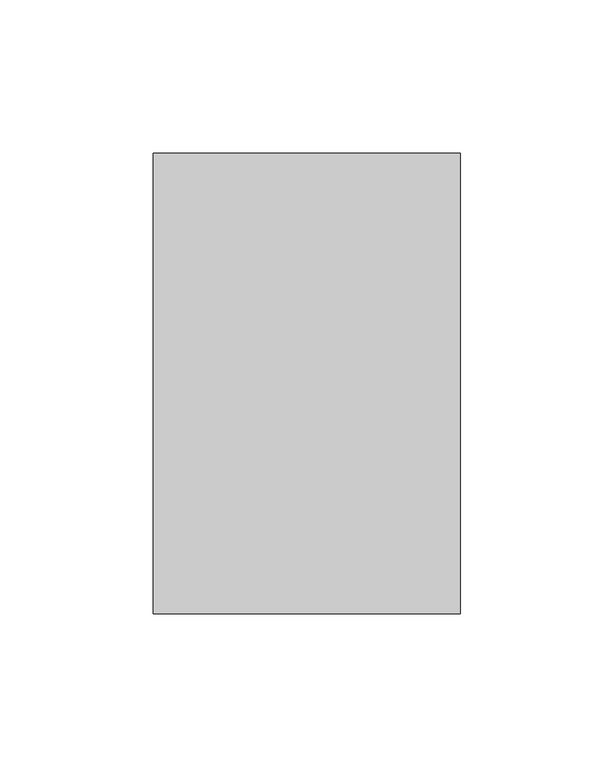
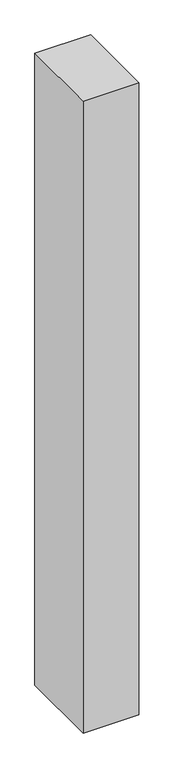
"""IFC4 building model written with IfcOpenShell, lengths in millimetres: member geometry, 矩形竖梃 : 教学楼 – 矩形竖梃 – 100x150mm."""

import ifcopenshell
import ifcopenshell.guid

model = None  # the IFC model being written
_history = None  # IfcOwnerHistory: only IFC2X3 demands one
_inside = {}  # id of a spatial element -> (the spatial element, [elements in it])
_under = {}  # id of a project, library or spatial element -> (it, [spatial elements below it])
_declared = {}  # id of a project -> (the project, [libraries it declares])
_typed = {}  # id of a type object -> (the type object, [elements of that type])
_made_of = {}  # id of a material, layer set ... -> (it, [elements and type objects made of it])


def new_model(schema):
    """Start an empty IFC model of exactly this schema.

    Asked for "IFC4X3", IfcOpenShell would pick the latest addendum, in which some entities
    have other attributes; the version numbers below select the first issue.
    IFC2X3 requires an IfcOwnerHistory on every rooted entity: one is made here for all.
    """
    global model, _history
    if schema == "IFC4X3":
        model = ifcopenshell.file(schema_version=(4, 3, 0, 0))
    else:
        model = ifcopenshell.file(schema=schema)
    _inside.clear()
    _under.clear()
    _declared.clear()
    _typed.clear()
    _made_of.clear()
    _history = None
    if model.schema == "IFC2X3":
        org = make("IfcOrganization", Name="unknown")
        user = make(
            "IfcPersonAndOrganization",
            ThePerson=make("IfcPerson", FamilyName="unknown"),
            TheOrganization=org,
        )
        app = make(
            "IfcApplication",
            ApplicationDeveloper=org,
            Version="unknown",
            ApplicationFullName="unknown",
            ApplicationIdentifier="unknown",
        )
        _history = make(
            "IfcOwnerHistory",
            OwningUser=user,
            OwningApplication=app,
            ChangeAction="ADDED",
            CreationDate=0,
        )
    return model


def make(cls, **values):
    """One entity of the class cls with the attributes given. An attribute that is None is left unset."""
    return model.create_entity(
        cls, **{name: value for name, value in values.items() if value is not None}
    )


def rooted(cls, **values):
    """An entity with a GlobalId (a new one), such as an element, a storey or a relation."""
    return make(cls, GlobalId=ifcopenshell.guid.new(), OwnerHistory=_history, **values)


def si_unit(unit_type, name, prefix=None):
    """IfcSIUnit, for example si_unit("LENGTHUNIT", "METRE", prefix="MILLI")."""
    return make("IfcSIUnit", UnitType=unit_type, Prefix=prefix, Name=name)


def assignment(units):
    """IfcUnitAssignment: the units of a project."""
    return None if units is None else make("IfcUnitAssignment", Units=units)


def point(xyz):
    """IfcCartesianPoint."""
    return None if xyz is None else make("IfcCartesianPoint", Coordinates=xyz)


def direction(xyz):
    """IfcDirection."""
    return None if xyz is None else make("IfcDirection", DirectionRatios=xyz)


def frame(location, z_axis=None, x_axis=None):
    """IfcAxis2Placement3D, a coordinate frame: its origin and axes. An axis left out is left unset."""
    return make(
        "IfcAxis2Placement3D",
        Location=point(location),
        Axis=direction(z_axis),
        RefDirection=direction(x_axis),
    )


def origin():
    """The frame at (0, 0, 0) with its axes left unset."""
    return frame((0.0, 0.0, 0.0))


def place(relative_to, where):
    """IfcLocalPlacement: puts the frame where relative to a parent placement (None: the world)."""
    return make(
        "IfcLocalPlacement", PlacementRelTo=relative_to, RelativePlacement=where
    )


def context(
    kind, dimensions, precision=None, world=None, true_north=None, identifier=None
):
    """IfcGeometricRepresentationContext, for example the 3D "Model" context."""
    return make(
        "IfcGeometricRepresentationContext",
        ContextIdentifier=identifier,
        ContextType=kind,
        CoordinateSpaceDimension=dimensions,
        Precision=precision,
        WorldCoordinateSystem=world,
        TrueNorth=true_north,
    )


def project(units=None, contexts=None):
    """IfcProject with its units and contexts."""
    return rooted(
        "IfcProject",
        Name="project",
        RepresentationContexts=contexts,
        UnitsInContext=assignment(units),
    )


def spatial(cls, under=None, at=None, **own):
    """A site, building, storey or space (cls), placed at a placement, below another one or the project."""
    s = rooted(cls, ObjectPlacement=at, **own)
    if under is not None:
        _under.setdefault(under.id(), (under, []))[1].append(s)
    return s


def polyline(points):
    """IfcPolyline through the points."""
    return make("IfcPolyline", Points=[point(p) for p in points])


def outline(outer, holes=None, kind="AREA"):
    """IfcArbitraryClosedProfileDef: a profile drawn as a closed curve; with holes, ...WithVoids."""
    if holes is None:
        return make("IfcArbitraryClosedProfileDef", ProfileType=kind, OuterCurve=outer)
    return make(
        "IfcArbitraryProfileDefWithVoids",
        ProfileType=kind,
        OuterCurve=outer,
        InnerCurves=holes,
    )


def extrude(swept, where, along, depth):
    """IfcExtrudedAreaSolid: the profile swept, set in the frame where, extruded along a direction by depth."""
    return make(
        "IfcExtrudedAreaSolid",
        SweptArea=swept,
        Position=where,
        ExtrudedDirection=direction(along),
        Depth=depth,
    )


def shape(context_of_items, identifier, shape_type, items):
    """IfcShapeRepresentation: the items that make up one representation, for example the "Body"."""
    return make(
        "IfcShapeRepresentation",
        ContextOfItems=context_of_items,
        RepresentationIdentifier=identifier,
        RepresentationType=shape_type,
        Items=items,
    )


def source(mapping_origin, context_of_items, identifier, shape_type, items):
    """IfcRepresentationMap: a shape defined once, which mapped items show again and again."""
    return make(
        "IfcRepresentationMap",
        MappingOrigin=mapping_origin,
        MappedRepresentation=shape(context_of_items, identifier, shape_type, items),
    )


def transform(
    local_origin,
    x_axis=None,
    y_axis=None,
    z_axis=None,
    scale=None,
    scale2=None,
    scale3=None,
    uniform=True,
):
    """IfcCartesianTransformationOperator3D, or its non-uniform kind. x_axis, y_axis, z_axis: its Axis1, 2, 3."""
    if uniform:
        return make(
            "IfcCartesianTransformationOperator3D",
            Axis1=direction(x_axis),
            Axis2=direction(y_axis),
            LocalOrigin=point(local_origin),
            Scale=scale,
            Axis3=direction(z_axis),
        )
    return make(
        "IfcCartesianTransformationOperator3DnonUniform",
        Axis1=direction(x_axis),
        Axis2=direction(y_axis),
        LocalOrigin=point(local_origin),
        Scale=scale,
        Axis3=direction(z_axis),
        Scale2=scale2,
        Scale3=scale3,
    )


def mapped(mapping_source, mapping_target):
    """IfcMappedItem: shows the shape of a source again, moved by a transform."""
    return make(
        "IfcMappedItem", MappingSource=mapping_source, MappingTarget=mapping_target
    )


def made_of(thing, what):
    """Note that an element or type object is made of a material, layer set ...; save() writes the relation."""
    if what is not None:
        _made_of.setdefault(what.id(), (what, []))[1].append(thing)
    return thing


def element(
    cls,
    number,
    at=None,
    inside=None,
    cuts=None,
    type_object=None,
    material=None,
    context=None,
    identifier="Body",
    shape_type=None,
    held_by="IfcProductDefinitionShape",
    body=None,
    shapes=None,
    **own,
):
    """One element of the class cls, such as IfcWall. Its Tag is "e" and its number.

    at: its placement. inside: the storey or other place that contains it. cuts: it is an
    opening in that element (IfcRelVoidsElement). A single representation is given by context,
    identifier, shape_type and body (its items); several are given by shapes. held_by: the class
    of the entity that holds the representations. save() writes the other relations.
    """
    e = rooted(cls, Tag="e%d" % number, ObjectPlacement=at, **own)
    if body is not None:
        shapes = [shape(context, identifier, shape_type, body)]
    if shapes is not None:
        e.Representation = make(held_by, Representations=shapes)
    if inside is not None:
        _inside.setdefault(inside.id(), (inside, []))[1].append(e)
    if cuts is not None:
        rooted(
            "IfcRelVoidsElement", RelatingBuildingElement=cuts, RelatedOpeningElement=e
        )
    if type_object is not None:
        _typed.setdefault(type_object.id(), (type_object, []))[1].append(e)
    return made_of(e, material)


def aggregate(whole, parts):
    """IfcRelAggregates: a whole, such as a stair, and the parts it consists of."""
    return rooted("IfcRelAggregates", RelatingObject=whole, RelatedObjects=parts)


def save(model, path):
    """Write the relations noted so far, then the file.

    IfcRelAggregates (storeys below a building ...), IfcRelContainedInSpatialStructure (elements
    in a storey), IfcRelDefinesByType, IfcRelAssociatesMaterial and IfcRelDeclares: one each for
    every whole, place, type object, material and project.
    """
    for whole, parts in _under.values():
        aggregate(whole, parts)
    for where, things in _inside.values():
        rooted(
            "IfcRelContainedInSpatialStructure",
            RelatedElements=things,
            RelatingStructure=where,
        )
    for kind, things in _typed.values():
        rooted("IfcRelDefinesByType", RelatedObjects=things, RelatingType=kind)
    for what, things in _made_of.values():
        rooted("IfcRelAssociatesMaterial", RelatedObjects=things, RelatingMaterial=what)
    for by, libraries in _declared.values():
        rooted("IfcRelDeclares", RelatingContext=by, RelatedDefinitions=libraries)
    model.write(path)


def member_7564be38(model_context):
    return source(origin(), model_context, "Body", "SweptSolid", [
        extrude(outline(polyline([(0.0, 75.0), (0.0, -75.0), (-100.0, -75.0), (-100.0, 75.0), (0.0, 75.0)])), frame((0.0, 0.0, -1200.0), z_axis=(0.0, 0.0, 1.0), x_axis=(1.0, 0.0, 0.0)), (0.0, 0.0, 1.0), 1200.0),
    ])


if __name__ == "__main__":
    model = new_model("IFC4")
    model_context = context("Model", 3, world=origin())
    ifc_project = project(units=[si_unit("LENGTHUNIT", "METRE", prefix="MILLI")], contexts=[model_context])
    site = spatial("IfcSite", under=ifc_project)
    building = spatial("IfcBuilding", under=site)
    placement = place(None, origin())
    member_shape = member_7564be38(model_context)
    element("IfcMember", 1, ObjectType="矩形竖梃 : 教学楼 – 矩形竖梃 – 100x150mm", at=placement, inside=building, context=model_context, shape_type="MappedRepresentation", body=[
        mapped(member_shape, transform((0.0, 0.0, 0.0), x_axis=(1.0, 0.0, 0.0), y_axis=(0.0, 1.0, 0.0), z_axis=(0.0, 0.0, 1.0))),
    ])
    save(model, "model.ifc")
